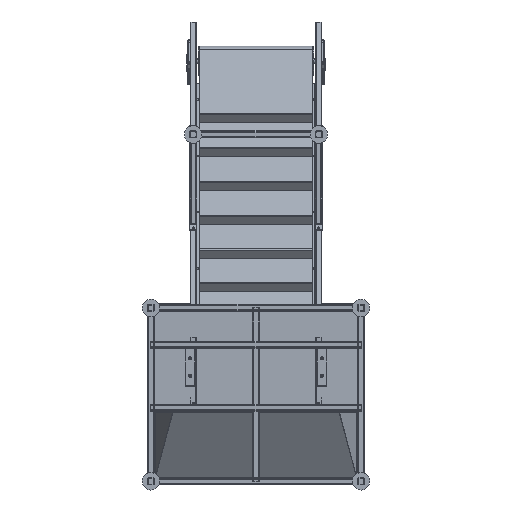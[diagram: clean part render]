
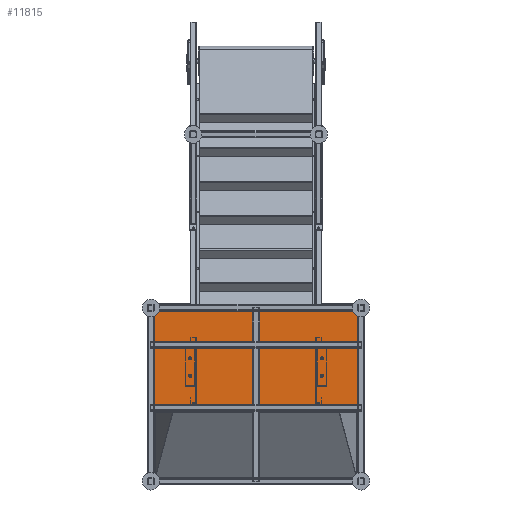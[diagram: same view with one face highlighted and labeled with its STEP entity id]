
A CAD part, front view. The second image highlights one B-rep face of the part: STEP entity #11815.
In plain terms, the highlighted planar face has unit normal (0, -1, 0).
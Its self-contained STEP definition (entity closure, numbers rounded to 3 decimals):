
#7656=FACE_BOUND('',#19169,.T.);
#7657=FACE_BOUND('',#19170,.T.);
#7658=FACE_BOUND('',#19171,.T.);
#7659=FACE_BOUND('',#19172,.T.);
#7660=FACE_BOUND('',#19173,.T.);
#8889=PLANE('',#62339);
#11815=ADVANCED_FACE('',(#7656,#7657,#7658,#7659,#7660),#8889,.T.);
#19169=EDGE_LOOP('',(#41865,#41866));
#19170=EDGE_LOOP('',(#41867,#41868));
#19171=EDGE_LOOP('',(#41869,#41870));
#19172=EDGE_LOOP('',(#41871,#41872));
#19173=EDGE_LOOP('',(#41873,#41874,#41875,#41876));
#22778=LINE('',#117051,#27137);
#22782=LINE('',#117060,#27141);
#22785=LINE('',#117066,#27144);
#22788=LINE('',#117072,#27147);
#27137=VECTOR('',#73926,1.);
#27141=VECTOR('',#73932,1.);
#27144=VECTOR('',#73937,1.);
#27147=VECTOR('',#73942,1.);
#41865=ORIENTED_EDGE('',*,*,#56050,.F.);
#41866=ORIENTED_EDGE('',*,*,#56082,.F.);
#41867=ORIENTED_EDGE('',*,*,#56054,.F.);
#41868=ORIENTED_EDGE('',*,*,#56083,.F.);
#41869=ORIENTED_EDGE('',*,*,#56058,.F.);
#41870=ORIENTED_EDGE('',*,*,#56084,.F.);
#41871=ORIENTED_EDGE('',*,*,#56062,.F.);
#41872=ORIENTED_EDGE('',*,*,#56085,.F.);
#41873=ORIENTED_EDGE('',*,*,#56066,.F.);
#41874=ORIENTED_EDGE('',*,*,#56076,.F.);
#41875=ORIENTED_EDGE('',*,*,#56073,.F.);
#41876=ORIENTED_EDGE('',*,*,#56070,.F.);
#48344=VERTEX_POINT('',#117016);
#48345=VERTEX_POINT('',#117017);
#48348=VERTEX_POINT('',#117025);
#48349=VERTEX_POINT('',#117026);
#48352=VERTEX_POINT('',#117034);
#48353=VERTEX_POINT('',#117035);
#48356=VERTEX_POINT('',#117043);
#48357=VERTEX_POINT('',#117044);
#48360=VERTEX_POINT('',#117052);
#48361=VERTEX_POINT('',#117053);
#48364=VERTEX_POINT('',#117061);
#48366=VERTEX_POINT('',#117067);
#56050=EDGE_CURVE('',#48344,#48345,#58465,.T.);
#56054=EDGE_CURVE('',#48348,#48349,#58467,.T.);
#56058=EDGE_CURVE('',#48352,#48353,#58469,.T.);
#56062=EDGE_CURVE('',#48356,#48357,#58471,.T.);
#56066=EDGE_CURVE('',#48360,#48361,#22778,.T.);
#56070=EDGE_CURVE('',#48361,#48364,#22782,.T.);
#56073=EDGE_CURVE('',#48364,#48366,#22785,.T.);
#56076=EDGE_CURVE('',#48366,#48360,#22788,.T.);
#56082=EDGE_CURVE('',#48345,#48344,#58477,.T.);
#56083=EDGE_CURVE('',#48349,#48348,#58478,.T.);
#56084=EDGE_CURVE('',#48353,#48352,#58479,.T.);
#56085=EDGE_CURVE('',#48357,#48356,#58480,.T.);
#58465=CIRCLE('',#62314,7.);
#58467=CIRCLE('',#62317,7.);
#58469=CIRCLE('',#62320,7.);
#58471=CIRCLE('',#62323,7.);
#58477=CIRCLE('',#62335,7.);
#58478=CIRCLE('',#62336,7.);
#58479=CIRCLE('',#62337,7.);
#58480=CIRCLE('',#62338,7.);
#62314=AXIS2_PLACEMENT_3D('',#117015,#73894,#73895);
#62317=AXIS2_PLACEMENT_3D('',#117024,#73902,#73903);
#62320=AXIS2_PLACEMENT_3D('',#117033,#73910,#73911);
#62323=AXIS2_PLACEMENT_3D('',#117042,#73918,#73919);
#62335=AXIS2_PLACEMENT_3D('',#117080,#73956,#73957);
#62336=AXIS2_PLACEMENT_3D('',#117081,#73958,#73959);
#62337=AXIS2_PLACEMENT_3D('',#117082,#73960,#73961);
#62338=AXIS2_PLACEMENT_3D('',#117083,#73962,#73963);
#62339=AXIS2_PLACEMENT_3D('',#117084,#73964,#73965);
#73894=DIRECTION('',(0.,-1.,0.));
#73895=DIRECTION('',(0.,0.,-1.));
#73902=DIRECTION('',(0.,-1.,0.));
#73903=DIRECTION('',(0.,0.,-1.));
#73910=DIRECTION('',(0.,-1.,0.));
#73911=DIRECTION('',(0.,0.,-1.));
#73918=DIRECTION('',(0.,-1.,0.));
#73919=DIRECTION('',(0.,0.,-1.));
#73926=DIRECTION('',(0.,0.,-1.));
#73932=DIRECTION('',(-1.,0.,0.));
#73937=DIRECTION('',(0.,0.,1.));
#73942=DIRECTION('',(1.,0.,0.));
#73956=DIRECTION('',(0.,-1.,0.));
#73957=DIRECTION('',(0.,0.,-1.));
#73958=DIRECTION('',(0.,-1.,0.));
#73959=DIRECTION('',(0.,0.,-1.));
#73960=DIRECTION('',(0.,-1.,0.));
#73961=DIRECTION('',(0.,0.,-1.));
#73962=DIRECTION('',(0.,-1.,0.));
#73963=DIRECTION('',(0.,0.,-1.));
#73964=DIRECTION('',(0.,-1.,0.));
#73965=DIRECTION('',(0.,0.,1.));
#117015=CARTESIAN_POINT('',(377.5,-800.,-106.));
#117016=CARTESIAN_POINT('',(377.5,-800.,-99.));
#117017=CARTESIAN_POINT('',(377.5,-800.,-113.));
#117024=CARTESIAN_POINT('',(377.5,-800.,-206.));
#117025=CARTESIAN_POINT('',(377.5,-800.,-199.));
#117026=CARTESIAN_POINT('',(377.5,-800.,-213.));
#117033=CARTESIAN_POINT('',(-377.5,-800.,-206.));
#117034=CARTESIAN_POINT('',(-377.5,-800.,-199.));
#117035=CARTESIAN_POINT('',(-377.5,-800.,-213.));
#117042=CARTESIAN_POINT('',(-377.5,-800.,-106.));
#117043=CARTESIAN_POINT('',(-377.5,-800.,-99.));
#117044=CARTESIAN_POINT('',(-377.5,-800.,-113.));
#117051=CARTESIAN_POINT('',(612.,-800.,-475.));
#117052=CARTESIAN_POINT('',(612.,-800.,100.));
#117053=CARTESIAN_POINT('',(612.,-800.,-475.));
#117060=CARTESIAN_POINT('',(612.,-800.,-475.));
#117061=CARTESIAN_POINT('',(-612.,-800.,-475.));
#117066=CARTESIAN_POINT('',(-612.,-800.,-475.));
#117067=CARTESIAN_POINT('',(-612.,-800.,100.));
#117072=CARTESIAN_POINT('',(612.,-800.,100.));
#117080=CARTESIAN_POINT('',(377.5,-800.,-106.));
#117081=CARTESIAN_POINT('',(377.5,-800.,-206.));
#117082=CARTESIAN_POINT('',(-377.5,-800.,-206.));
#117083=CARTESIAN_POINT('',(-377.5,-800.,-106.));
#117084=CARTESIAN_POINT('',(0.,-800.,0.));
